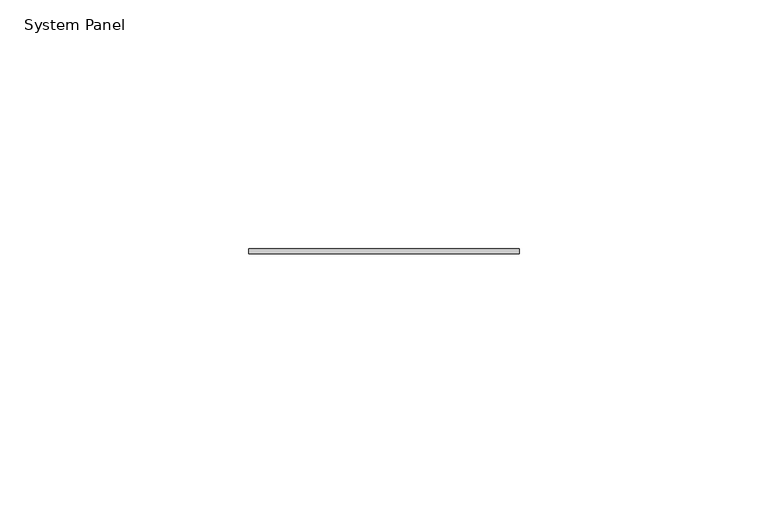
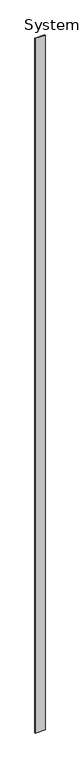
"""IFC4 building model written with IfcOpenShell, lengths in millimetres: plate geometry, System Panel : Stratco_Hiland_Tray."""

import ifcopenshell
import ifcopenshell.guid

model = None  # the IFC model being written
_history = None  # IfcOwnerHistory: only IFC2X3 demands one
_inside = {}  # id of a spatial element -> (the spatial element, [elements in it])
_under = {}  # id of a project, library or spatial element -> (it, [spatial elements below it])
_declared = {}  # id of a project -> (the project, [libraries it declares])
_typed = {}  # id of a type object -> (the type object, [elements of that type])
_made_of = {}  # id of a material, layer set ... -> (it, [elements and type objects made of it])


def new_model(schema):
    """Start an empty IFC model of exactly this schema.

    Asked for "IFC4X3", IfcOpenShell would pick the latest addendum, in which some entities
    have other attributes; the version numbers below select the first issue.
    IFC2X3 requires an IfcOwnerHistory on every rooted entity: one is made here for all.
    """
    global model, _history
    if schema == "IFC4X3":
        model = ifcopenshell.file(schema_version=(4, 3, 0, 0))
    else:
        model = ifcopenshell.file(schema=schema)
    _inside.clear()
    _under.clear()
    _declared.clear()
    _typed.clear()
    _made_of.clear()
    _history = None
    if model.schema == "IFC2X3":
        org = make("IfcOrganization", Name="unknown")
        user = make(
            "IfcPersonAndOrganization",
            ThePerson=make("IfcPerson", FamilyName="unknown"),
            TheOrganization=org,
        )
        app = make(
            "IfcApplication",
            ApplicationDeveloper=org,
            Version="unknown",
            ApplicationFullName="unknown",
            ApplicationIdentifier="unknown",
        )
        _history = make(
            "IfcOwnerHistory",
            OwningUser=user,
            OwningApplication=app,
            ChangeAction="ADDED",
            CreationDate=0,
        )
    return model


def make(cls, **values):
    """One entity of the class cls with the attributes given. An attribute that is None is left unset."""
    return model.create_entity(
        cls, **{name: value for name, value in values.items() if value is not None}
    )


def rooted(cls, **values):
    """An entity with a GlobalId (a new one), such as an element, a storey or a relation."""
    return make(cls, GlobalId=ifcopenshell.guid.new(), OwnerHistory=_history, **values)


def si_unit(unit_type, name, prefix=None):
    """IfcSIUnit, for example si_unit("LENGTHUNIT", "METRE", prefix="MILLI")."""
    return make("IfcSIUnit", UnitType=unit_type, Prefix=prefix, Name=name)


def assignment(units):
    """IfcUnitAssignment: the units of a project."""
    return None if units is None else make("IfcUnitAssignment", Units=units)


def point(xyz):
    """IfcCartesianPoint."""
    return None if xyz is None else make("IfcCartesianPoint", Coordinates=xyz)


def direction(xyz):
    """IfcDirection."""
    return None if xyz is None else make("IfcDirection", DirectionRatios=xyz)


def frame(location, z_axis=None, x_axis=None):
    """IfcAxis2Placement3D, a coordinate frame: its origin and axes. An axis left out is left unset."""
    return make(
        "IfcAxis2Placement3D",
        Location=point(location),
        Axis=direction(z_axis),
        RefDirection=direction(x_axis),
    )


def origin():
    """The frame at (0, 0, 0) with its axes left unset."""
    return frame((0.0, 0.0, 0.0))


def origin_with_axes():
    """The frame at (0, 0, 0) with the z axis (0, 0, 1) and the x axis (1, 0, 0) written out."""
    return frame((0.0, 0.0, 0.0), z_axis=(0.0, 0.0, 1.0), x_axis=(1.0, 0.0, 0.0))


def place(relative_to, where):
    """IfcLocalPlacement: puts the frame where relative to a parent placement (None: the world)."""
    return make(
        "IfcLocalPlacement", PlacementRelTo=relative_to, RelativePlacement=where
    )


def context(
    kind, dimensions, precision=None, world=None, true_north=None, identifier=None
):
    """IfcGeometricRepresentationContext, for example the 3D "Model" context."""
    return make(
        "IfcGeometricRepresentationContext",
        ContextIdentifier=identifier,
        ContextType=kind,
        CoordinateSpaceDimension=dimensions,
        Precision=precision,
        WorldCoordinateSystem=world,
        TrueNorth=true_north,
    )


def project(units=None, contexts=None):
    """IfcProject with its units and contexts."""
    return rooted(
        "IfcProject",
        Name="project",
        RepresentationContexts=contexts,
        UnitsInContext=assignment(units),
    )


def spatial(cls, under=None, at=None, **own):
    """A site, building, storey or space (cls), placed at a placement, below another one or the project."""
    s = rooted(cls, ObjectPlacement=at, **own)
    if under is not None:
        _under.setdefault(under.id(), (under, []))[1].append(s)
    return s


def polyline(points):
    """IfcPolyline through the points."""
    return make("IfcPolyline", Points=[point(p) for p in points])


def outline(outer, holes=None, kind="AREA"):
    """IfcArbitraryClosedProfileDef: a profile drawn as a closed curve; with holes, ...WithVoids."""
    if holes is None:
        return make("IfcArbitraryClosedProfileDef", ProfileType=kind, OuterCurve=outer)
    return make(
        "IfcArbitraryProfileDefWithVoids",
        ProfileType=kind,
        OuterCurve=outer,
        InnerCurves=holes,
    )


def extrude(swept, where, along, depth):
    """IfcExtrudedAreaSolid: the profile swept, set in the frame where, extruded along a direction by depth."""
    return make(
        "IfcExtrudedAreaSolid",
        SweptArea=swept,
        Position=where,
        ExtrudedDirection=direction(along),
        Depth=depth,
    )


def shape(context_of_items, identifier, shape_type, items):
    """IfcShapeRepresentation: the items that make up one representation, for example the "Body"."""
    return make(
        "IfcShapeRepresentation",
        ContextOfItems=context_of_items,
        RepresentationIdentifier=identifier,
        RepresentationType=shape_type,
        Items=items,
    )


def source(mapping_origin, context_of_items, identifier, shape_type, items):
    """IfcRepresentationMap: a shape defined once, which mapped items show again and again."""
    return make(
        "IfcRepresentationMap",
        MappingOrigin=mapping_origin,
        MappedRepresentation=shape(context_of_items, identifier, shape_type, items),
    )


def transform(
    local_origin,
    x_axis=None,
    y_axis=None,
    z_axis=None,
    scale=None,
    scale2=None,
    scale3=None,
    uniform=True,
):
    """IfcCartesianTransformationOperator3D, or its non-uniform kind. x_axis, y_axis, z_axis: its Axis1, 2, 3."""
    if uniform:
        return make(
            "IfcCartesianTransformationOperator3D",
            Axis1=direction(x_axis),
            Axis2=direction(y_axis),
            LocalOrigin=point(local_origin),
            Scale=scale,
            Axis3=direction(z_axis),
        )
    return make(
        "IfcCartesianTransformationOperator3DnonUniform",
        Axis1=direction(x_axis),
        Axis2=direction(y_axis),
        LocalOrigin=point(local_origin),
        Scale=scale,
        Axis3=direction(z_axis),
        Scale2=scale2,
        Scale3=scale3,
    )


def mapped(mapping_source, mapping_target):
    """IfcMappedItem: shows the shape of a source again, moved by a transform."""
    return make(
        "IfcMappedItem", MappingSource=mapping_source, MappingTarget=mapping_target
    )


def made_of(thing, what):
    """Note that an element or type object is made of a material, layer set ...; save() writes the relation."""
    if what is not None:
        _made_of.setdefault(what.id(), (what, []))[1].append(thing)
    return thing


def element(
    cls,
    number,
    at=None,
    inside=None,
    cuts=None,
    type_object=None,
    material=None,
    context=None,
    identifier="Body",
    shape_type=None,
    held_by="IfcProductDefinitionShape",
    body=None,
    shapes=None,
    **own,
):
    """One element of the class cls, such as IfcWall. Its Tag is "e" and its number.

    at: its placement. inside: the storey or other place that contains it. cuts: it is an
    opening in that element (IfcRelVoidsElement). A single representation is given by context,
    identifier, shape_type and body (its items); several are given by shapes. held_by: the class
    of the entity that holds the representations. save() writes the other relations.
    """
    e = rooted(cls, Tag="e%d" % number, ObjectPlacement=at, **own)
    if body is not None:
        shapes = [shape(context, identifier, shape_type, body)]
    if shapes is not None:
        e.Representation = make(held_by, Representations=shapes)
    if inside is not None:
        _inside.setdefault(inside.id(), (inside, []))[1].append(e)
    if cuts is not None:
        rooted(
            "IfcRelVoidsElement", RelatingBuildingElement=cuts, RelatedOpeningElement=e
        )
    if type_object is not None:
        _typed.setdefault(type_object.id(), (type_object, []))[1].append(e)
    return made_of(e, material)


def aggregate(whole, parts):
    """IfcRelAggregates: a whole, such as a stair, and the parts it consists of."""
    return rooted("IfcRelAggregates", RelatingObject=whole, RelatedObjects=parts)


def save(model, path):
    """Write the relations noted so far, then the file.

    IfcRelAggregates (storeys below a building ...), IfcRelContainedInSpatialStructure (elements
    in a storey), IfcRelDefinesByType, IfcRelAssociatesMaterial and IfcRelDeclares: one each for
    every whole, place, type object, material and project.
    """
    for whole, parts in _under.values():
        aggregate(whole, parts)
    for where, things in _inside.values():
        rooted(
            "IfcRelContainedInSpatialStructure",
            RelatedElements=things,
            RelatingStructure=where,
        )
    for kind, things in _typed.values():
        rooted("IfcRelDefinesByType", RelatedObjects=things, RelatingType=kind)
    for what, things in _made_of.values():
        rooted("IfcRelAssociatesMaterial", RelatedObjects=things, RelatingMaterial=what)
    for by, libraries in _declared.values():
        rooted("IfcRelDeclares", RelatingContext=by, RelatedDefinitions=libraries)
    model.write(path)


def system_panel_2266601a(model_context):
    return source(origin(), model_context, "Body", "SweptSolid", [
        extrude(outline(polyline([(27.2485582, 2.5), (-27.2485582, 2.5), (-27.2485582, 3.5), (27.2485582, 3.5), (27.2485582, 2.5)])), origin_with_axes(), (0.0, 0.0, 1.0), 4000.0),
    ])


if __name__ == "__main__":
    model = new_model("IFC4")
    model_context = context("Model", 3, world=origin())
    ifc_project = project(units=[si_unit("LENGTHUNIT", "METRE", prefix="MILLI")], contexts=[model_context])
    site = spatial("IfcSite", under=ifc_project)
    building = spatial("IfcBuilding", under=site)
    placement = place(None, origin())
    system_panel_shape = system_panel_2266601a(model_context)
    element("IfcPlate", 1, ObjectType="System Panel : Stratco_Hiland_Tray", at=placement, inside=building, context=model_context, shape_type="MappedRepresentation", body=[
        mapped(system_panel_shape, transform((0.0, 0.0, 0.0), x_axis=(1.0, 0.0, 0.0), y_axis=(0.0, 1.0, 0.0), z_axis=(0.0, 0.0, 1.0))),
    ])
    save(model, "model.ifc")
